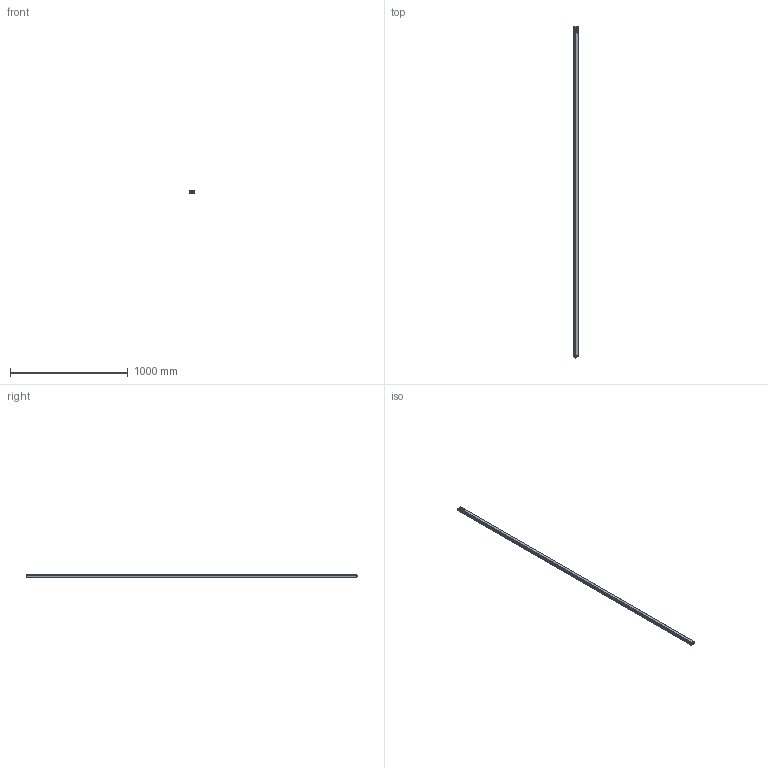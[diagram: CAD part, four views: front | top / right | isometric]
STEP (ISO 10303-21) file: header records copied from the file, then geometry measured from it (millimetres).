
FILE_DESCRIPTION(/* description */ (''),/* implementation_level */ '2;1');
FILE_NAME(/* name */ 'C:\Users\andre\SynologyDrive\Optoscan\Libreria Componenti\00 - Barriere\Polaris sorgente\Polaris_2800_TX.stp',/* time_stamp */ '2021-06-04T11:31:11+02:00',/* author */ ('andre'),/* organization */ (''),/* preprocessor_version */ 'ST-DEVELOPER v18',/* originating_system */ 'Autodesk Inventor 2020',/* authorisation */ '');
FILE_SCHEMA (('AUTOMOTIVE_DESIGN { 1 0 10303 214 3 1 1 }'));
Length unit declared in the file: millimetre
Products named in the file (1): Polaris_2800_TX
Bounding box: 40.5 x 2816.8 x 20.75 mm (x, y, z)
Volume: 551968.7 mm3; surface area: 731897.8 mm2
Topology: 1 solids, 1 shells, 722 faces, 2004 edges, 1288 vertices
Faces by surface type: plane 327, cylinder 203, bspline 115, torus 63, cone 8, sphere 6
Full cylindrical faces by diameter (mm): 1 x8, 2.5 x4, 3 x4, 3.5 x4, 5.5 x4, 8 x1, 10.5 x2, 11.75 x9, 12 x1, 12.3 x2, 14.5 x1, 16.7 x1, 17.5 x1
Entity records: 29853 total; most frequent: CARTESIAN_POINT 11151, ORIENTED_EDGE 3994, DIRECTION 3433, EDGE_CURVE 1997, VERTEX_POINT 1289, AXIS2_PLACEMENT_3D 1187, LINE 1059, VECTOR 1059
